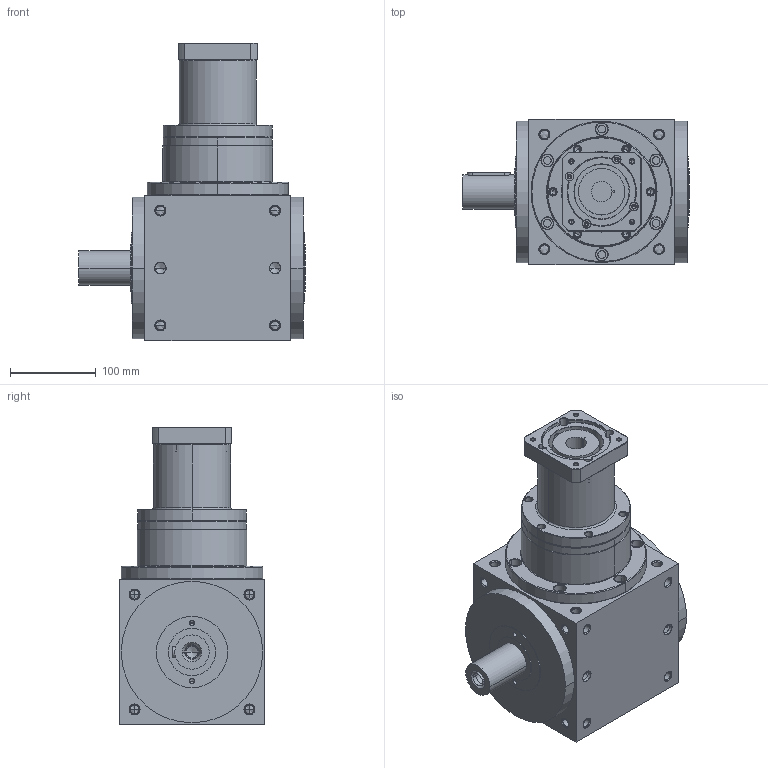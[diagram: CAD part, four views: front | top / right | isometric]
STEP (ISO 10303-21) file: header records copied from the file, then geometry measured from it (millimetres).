
FILE_DESCRIPTION((''),'2;1');
FILE_NAME('ATB170FL12-P0405300303_ASM','2014-07-29T',('d01707'),(''),'PRO/ENGINEER BY PARAMETRIC TECHNOLOGY CORPORATION, 2008410','PRO/ENGINEER BY PARAMETRIC TECHNOLOGY CORPORATION, 2008410','');
FILE_SCHEMA(('CONFIG_CONTROL_DESIGN'));
Length unit declared in the file: millimetre
Products named in the file (5): ATBFL1-HOUSING-2-7; P1820700001; P0226700001; P0405300303; ATB170FL12-P0405300303_ASM
Assembly tree (4 placements, depth 2):
  ATB170FL12-P0405300303_ASM
    ATBFL1-HOUSING-2-7
    P1820700001
    P0226700001
    P0405300303
Bounding box: 264 x 170 x 347.5 mm (x, y, z)
Volume: 6745808.3 mm3; surface area: 458821.5 mm2
Topology: 4 solids, 43 shells, 812 faces, 1995 edges, 1173 vertices
Faces by surface type: cylinder 352, cone 280, plane 114, torus 50, bspline 16
Entity records: 24948 total; most frequent: CARTESIAN_POINT 5842, DIRECTION 4277, ORIENTED_EDGE 3646, EDGE_CURVE 1901, AXIS2_PLACEMENT_3D 1785, VERTEX_POINT 1173, CIRCLE 972, EDGE_LOOP 960
